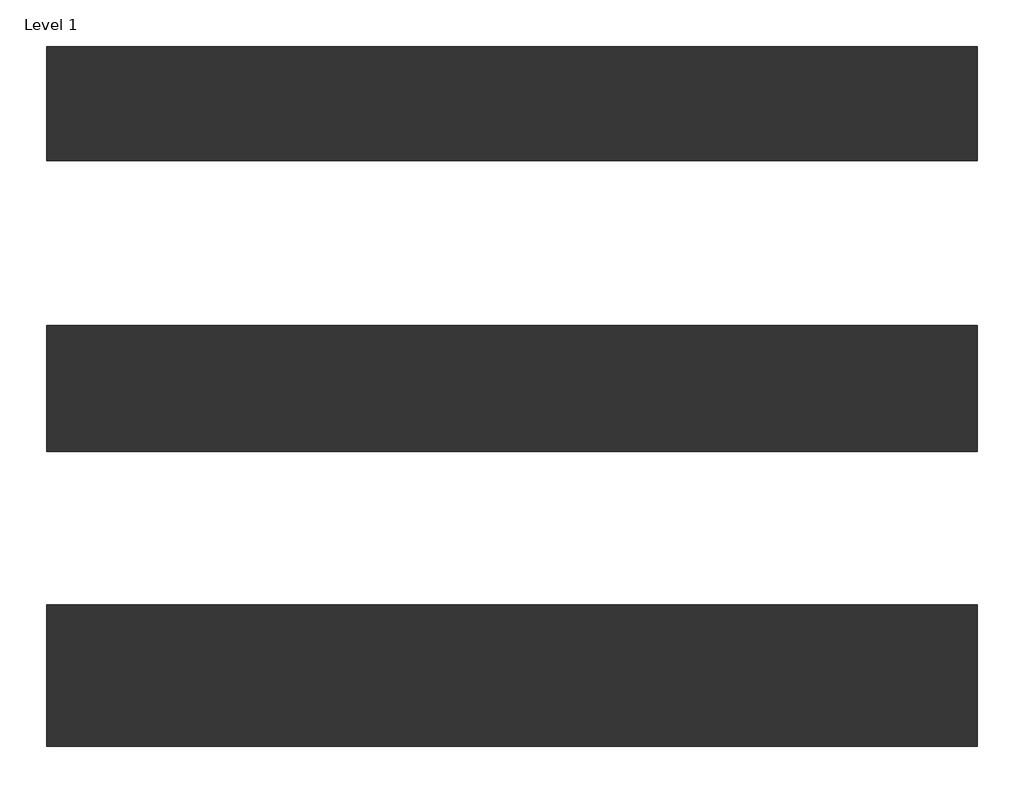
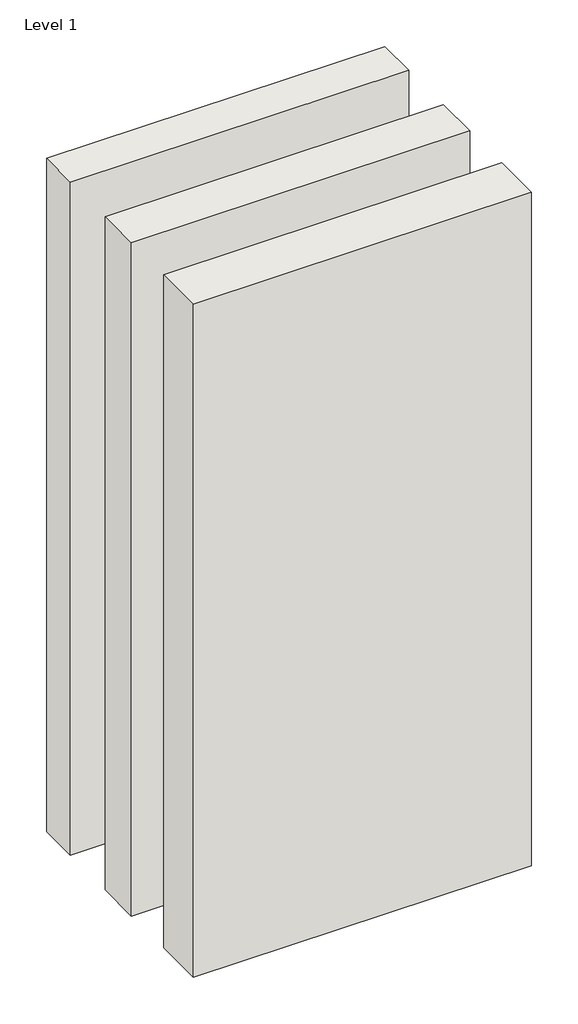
# One storey: 3 walls.
"""IFC4 building model written with IfcOpenShell, lengths in millimetres."""

from ifc_helpers import new_model, si_unit, origin, origin_with_axes, place, context, project, spatial, polyline, outline, extrude, element, save

model = new_model("IFC4")

# Units and contexts
model_context = context("Model", 3, world=origin())
ifc_project = project(units=[si_unit("LENGTHUNIT", "METRE", prefix="MILLI")], contexts=[model_context])

# Site, building, storey
site = spatial("IfcSite", under=ifc_project)
building = spatial("IfcBuilding", under=site)
storey = spatial("IfcBuildingStorey", under=building, Name="Level 1", Elevation=0.0)

# Walls
placement = place(None, origin())
element("IfcWall", 1, ObjectType="Interior-Steel Frame-Party Wall-CSR1510-257mm", at=placement, inside=storey, context=model_context, shape_type="SweptSolid", body=[
    extrude(outline(polyline([(-709.8246231, -762.6957492), (1190.1753769, -762.6957492), (1190.1753769, -1019.6957492), (-709.8246231, -1019.6957492), (-709.8246231, -762.6957492)])), origin_with_axes(), (0.0, 0.0, 1.0), 4000.0),
])
element("IfcWall", 2, ObjectType="Interior-Steel Frame-Party Wall-CSR1510-289mm", at=placement, inside=storey, context=model_context, shape_type="SweptSolid", body=[
    extrude(outline(polyline([(-709.8246231, -1332.6957492), (1190.1753769, -1332.6957492), (1190.1753769, -1621.6957492), (-709.8246231, -1621.6957492), (-709.8246231, -1332.6957492)])), origin_with_axes(), (0.0, 0.0, 1.0), 4000.0),
])
element("IfcWall", 3, ObjectType="Interior-Steel Frame-Party Wall-CSR1510-233mm", at=placement, inside=storey, context=model_context, shape_type="SweptSolid", body=[
    extrude(outline(polyline([(-709.8246231, -192.6957492), (1190.1753769, -192.6957492), (1190.1753769, -425.6957492), (-709.8246231, -425.6957492), (-709.8246231, -192.6957492)])), origin_with_axes(), (0.0, 0.0, 1.0), 4000.0),
])

save(model, "model.ifc")
